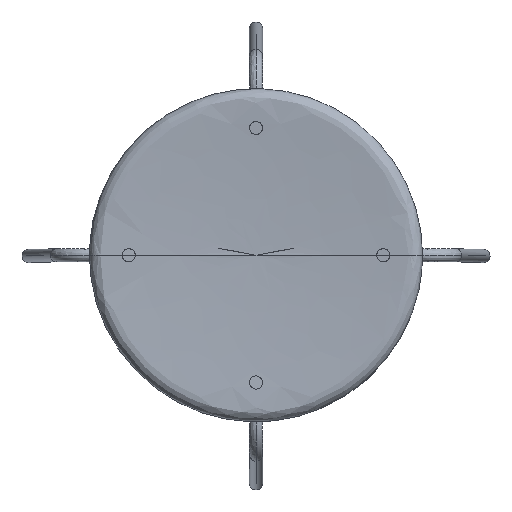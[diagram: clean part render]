
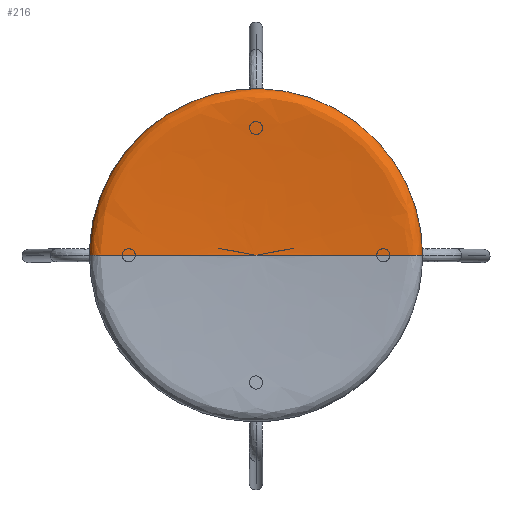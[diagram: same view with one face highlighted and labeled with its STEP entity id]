
A CAD part, top view. The second image highlights one B-rep face of the part: STEP entity #216.
In plain terms, the highlighted free-form (B-spline) face has degree [2, 2] with [5, 7] control points.
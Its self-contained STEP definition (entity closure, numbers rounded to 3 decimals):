
#75=(
BOUNDED_CURVE()
B_SPLINE_CURVE(2,(#2242,#2243,#2244,#2245,#2246,#2247,#2248),
 .UNSPECIFIED.,.F.,.F.)
B_SPLINE_CURVE_WITH_KNOTS((3,2,2,3),(186.628,348.717,
360.236,371.755),.UNSPECIFIED.)
CURVE()
GEOMETRIC_REPRESENTATION_ITEM()
RATIONAL_B_SPLINE_CURVE((1.,0.999,1.,0.924,1.,0.924,
1.))
REPRESENTATION_ITEM('')
);
#76=(
BOUNDED_CURVE()
B_SPLINE_CURVE(2,(#2249,#2250,#2251,#2252,#2253),.UNSPECIFIED.,.F.,.F.)
B_SPLINE_CURVE_WITH_KNOTS((3,2,3),(-556.85,-278.425,
0.),.UNSPECIFIED.)
CURVE()
GEOMETRIC_REPRESENTATION_ITEM()
RATIONAL_B_SPLINE_CURVE((1.,0.707,1.,0.707,1.))
REPRESENTATION_ITEM('')
);
#77=(
BOUNDED_CURVE()
B_SPLINE_CURVE(2,(#2254,#2255,#2256,#2257,#2258,#2259,#2260),
 .UNSPECIFIED.,.F.,.F.)
B_SPLINE_CURVE_WITH_KNOTS((3,2,2,3),(-371.755,-360.236,
-348.717,-186.628),.UNSPECIFIED.)
CURVE()
GEOMETRIC_REPRESENTATION_ITEM()
RATIONAL_B_SPLINE_CURVE((1.,0.924,1.,0.924,1.,0.999,
1.))
REPRESENTATION_ITEM('')
);
#125=(
BOUNDED_SURFACE()
B_SPLINE_SURFACE(2,2,((#2082,#2083,#2084,#2085,#2086,#2087,#2088),(#2089,
#2090,#2091,#2092,#2093,#2094,#2095),(#2096,#2097,#2098,#2099,#2100,#2101,
#2102),(#2103,#2104,#2105,#2106,#2107,#2108,#2109),(#2110,#2111,#2112,#2113,
#2114,#2115,#2116)),.UNSPECIFIED.,.F.,.F.,.F.)
B_SPLINE_SURFACE_WITH_KNOTS((3,2,3),(3,2,2,3),(0.,278.425,556.85),
(186.628,349.763,360.759,371.755),
 .UNSPECIFIED.)
GEOMETRIC_REPRESENTATION_ITEM()
RATIONAL_B_SPLINE_SURFACE(((1.,0.999,1.,0.924,
1.,0.924,1.),(0.707,0.707,0.707,
0.653,0.707,0.653,0.707),
(1.,0.999,1.,0.924,1.,0.924,
1.),(0.707,0.707,0.707,0.653,
0.707,0.653,0.707),(1.,
0.999,1.,0.924,1.,0.924,1.)))
REPRESENTATION_ITEM('')
SURFACE()
);
#216=ADVANCED_FACE('',(#282),#125,.T.);
#282=FACE_OUTER_BOUND('',#348,.T.);
#348=EDGE_LOOP('',(#512,#513,#514));
#512=ORIENTED_EDGE('',*,*,#674,.T.);
#513=ORIENTED_EDGE('',*,*,#675,.T.);
#514=ORIENTED_EDGE('',*,*,#676,.T.);
#674=EDGE_CURVE('',#790,#791,#75,.T.);
#675=EDGE_CURVE('',#791,#792,#76,.T.);
#676=EDGE_CURVE('',#792,#790,#77,.T.);
#790=VERTEX_POINT('',#2220);
#791=VERTEX_POINT('',#2221);
#792=VERTEX_POINT('',#2222);
#2082=CARTESIAN_POINT('',(-0.001,0.,466.84));
#2083=CARTESIAN_POINT('',(-81.605,0.,467.183));
#2084=CARTESIAN_POINT('',(-162.971,0.,473.429));
#2085=CARTESIAN_POINT('',(-168.753,0.,473.873));
#2086=CARTESIAN_POINT('',(-173.155,0.,470.098));
#2087=CARTESIAN_POINT('',(-177.558,0.,466.324));
#2088=CARTESIAN_POINT('',(-178.001,0.,460.541));
#2089=CARTESIAN_POINT('',(-0.001,0.,466.84));
#2090=CARTESIAN_POINT('',(-81.605,81.604,467.183));
#2091=CARTESIAN_POINT('',(-162.971,162.969,473.429));
#2092=CARTESIAN_POINT('',(-168.753,168.752,473.873));
#2093=CARTESIAN_POINT('',(-173.155,173.154,470.098));
#2094=CARTESIAN_POINT('',(-177.558,177.556,466.324));
#2095=CARTESIAN_POINT('',(-178.001,178.,460.541));
#2096=CARTESIAN_POINT('',(-0.001,0.,466.84));
#2097=CARTESIAN_POINT('',(-0.001,81.604,467.183));
#2098=CARTESIAN_POINT('',(-0.001,162.969,473.429));
#2099=CARTESIAN_POINT('',(-0.001,168.752,473.873));
#2100=CARTESIAN_POINT('',(-0.001,173.154,470.098));
#2101=CARTESIAN_POINT('',(-0.001,177.556,466.324));
#2102=CARTESIAN_POINT('',(-0.001,178.,460.541));
#2103=CARTESIAN_POINT('',(-0.001,0.,466.84));
#2104=CARTESIAN_POINT('',(81.603,81.604,467.183));
#2105=CARTESIAN_POINT('',(162.968,162.969,473.429));
#2106=CARTESIAN_POINT('',(168.75,168.752,473.873));
#2107=CARTESIAN_POINT('',(173.153,173.154,470.098));
#2108=CARTESIAN_POINT('',(177.555,177.556,466.324));
#2109=CARTESIAN_POINT('',(177.999,178.,460.541));
#2110=CARTESIAN_POINT('',(-0.001,0.,466.84));
#2111=CARTESIAN_POINT('',(81.603,0.,467.183));
#2112=CARTESIAN_POINT('',(162.968,0.,473.429));
#2113=CARTESIAN_POINT('',(168.75,0.,473.873));
#2114=CARTESIAN_POINT('',(173.153,0.,470.098));
#2115=CARTESIAN_POINT('',(177.555,0.,466.324));
#2116=CARTESIAN_POINT('',(177.999,0.,460.541));
#2220=CARTESIAN_POINT('',(-0.001,0.,466.84));
#2221=CARTESIAN_POINT('',(177.999,0.,460.541));
#2222=CARTESIAN_POINT('',(-178.001,0.,460.541));
#2242=CARTESIAN_POINT('',(-0.001,0.,466.84));
#2243=CARTESIAN_POINT('',(81.603,0.,467.183));
#2244=CARTESIAN_POINT('',(162.968,0.,473.429));
#2245=CARTESIAN_POINT('',(168.75,0.,473.873));
#2246=CARTESIAN_POINT('',(173.153,0.,470.098));
#2247=CARTESIAN_POINT('',(177.555,0.,466.324));
#2248=CARTESIAN_POINT('',(177.999,0.,460.541));
#2249=CARTESIAN_POINT('',(177.999,0.,460.541));
#2250=CARTESIAN_POINT('',(177.999,178.,460.541));
#2251=CARTESIAN_POINT('',(-0.001,178.,460.541));
#2252=CARTESIAN_POINT('',(-178.001,178.,460.541));
#2253=CARTESIAN_POINT('',(-178.001,0.,460.541));
#2254=CARTESIAN_POINT('',(-178.001,0.,460.541));
#2255=CARTESIAN_POINT('',(-177.558,0.,466.324));
#2256=CARTESIAN_POINT('',(-173.155,0.,470.098));
#2257=CARTESIAN_POINT('',(-168.753,0.,473.873));
#2258=CARTESIAN_POINT('',(-162.971,0.,473.429));
#2259=CARTESIAN_POINT('',(-81.605,0.,467.183));
#2260=CARTESIAN_POINT('',(-0.001,0.,466.84));
